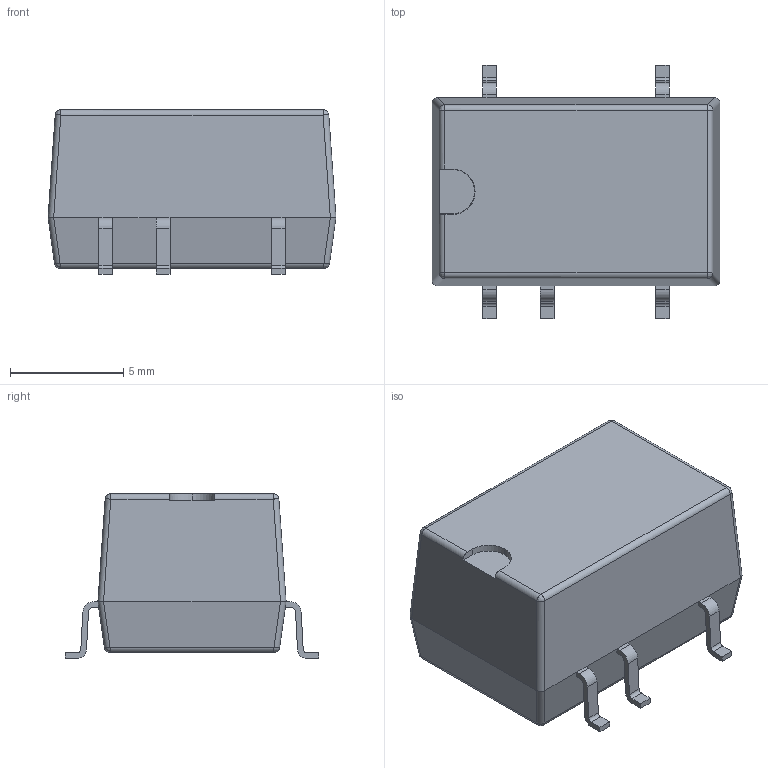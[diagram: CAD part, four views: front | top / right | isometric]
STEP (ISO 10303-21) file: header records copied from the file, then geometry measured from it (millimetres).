
FILE_DESCRIPTION (( 'STEP AP214' ), '1' );
FILE_NAME ('ISH.STEP', '2021-03-23T17:30:11', ( '' ), ( '' ), 'SwSTEP 2.0', 'SolidWorks 2020', '' );
FILE_SCHEMA (( 'AUTOMOTIVE_DESIGN' ));
Length unit declared in the file: inch
Products named in the file (1): ISH
Bounding box: 12.7 x 11.2 x 7.25 mm (x, y, z)
Volume: 691.3 mm3; surface area: 490.3 mm2
Topology: 1 solids, 1 shells, 106 faces, 277 edges, 165 vertices
Faces by surface type: plane 58, cylinder 38, bspline 8, cone 2
Entity records: 4324 total; most frequent: CARTESIAN_POINT 1278, ORIENTED_EDGE 538, DIRECTION 477, EDGE_CURVE 269, LINE 191, VECTOR 191, VERTEX_POINT 165, AXIS2_PLACEMENT_3D 143
